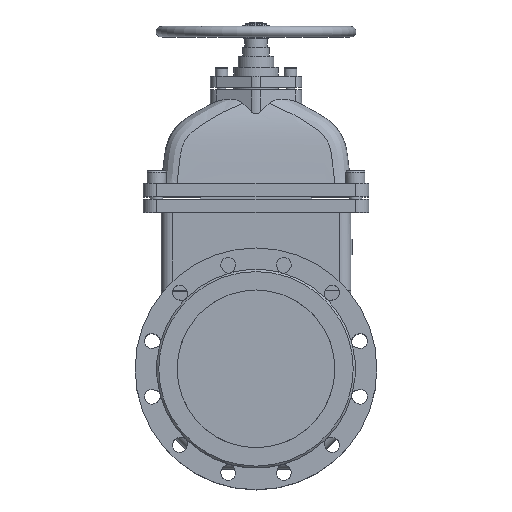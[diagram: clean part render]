
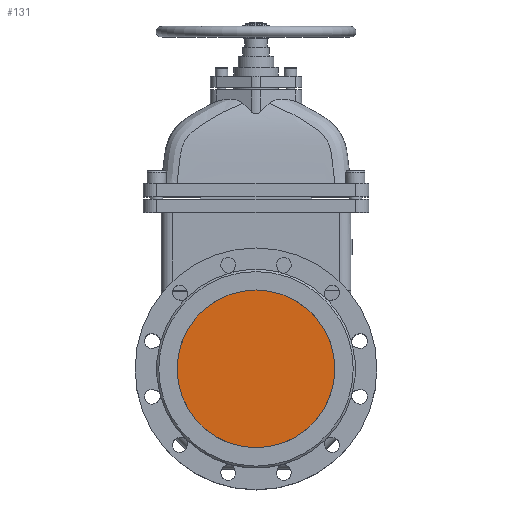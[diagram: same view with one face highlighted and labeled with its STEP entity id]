
A CAD part, top view. The second image highlights one B-rep face of the part: STEP entity #131.
In plain terms, the highlighted planar face has unit normal (0, 0, 1).
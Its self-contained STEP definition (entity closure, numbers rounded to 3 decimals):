
#131=ADVANCED_FACE('',(#1209),#1211,.F.);
#1209=FACE_BOUND('',#1210,.T.);
#1210=EDGE_LOOP('',(#7178));
#1211=PLANE('',#1212);
#1212=AXIS2_PLACEMENT_3D('',#1213,#1214,#1215);
#1213=CARTESIAN_POINT('',(0.,0.,127.5));
#1214=DIRECTION('',(0.,0.,-1.));
#1215=DIRECTION('',(-1.,0.,0.));
#7178=ORIENTED_EDGE('',*,*,#9266,.F.);
#9266=EDGE_CURVE('',#10257,#10257,#10258,.T.);
#10257=VERTEX_POINT('',#11912);
#10258=(BOUNDED_CURVE()B_SPLINE_CURVE(3,
(#11913,#11914,#11915,#11916,#11917,#11918,#11919),
.UNSPECIFIED.,.T.,.F.)B_SPLINE_CURVE_WITH_KNOTS((4,3,4),
(0.,0.5,1.),
.UNSPECIFIED.)CURVE()GEOMETRIC_REPRESENTATION_ITEM()RATIONAL_B_SPLINE_CURVE((1.,
0.333,0.333,1.,0.333,0.333,1.))
REPRESENTATION_ITEM(''));
#11912=CARTESIAN_POINT('',(0.,150.,127.5));
#11913=CARTESIAN_POINT('',(0.,150.,127.5));
#11914=CARTESIAN_POINT('',(300.,150.,127.5));
#11915=CARTESIAN_POINT('',(300.,-150.,127.5));
#11916=CARTESIAN_POINT('',(0.,-150.,127.5));
#11917=CARTESIAN_POINT('',(-300.,-150.,127.5));
#11918=CARTESIAN_POINT('',(-300.,150.,127.5));
#11919=CARTESIAN_POINT('',(0.,150.,127.5));
